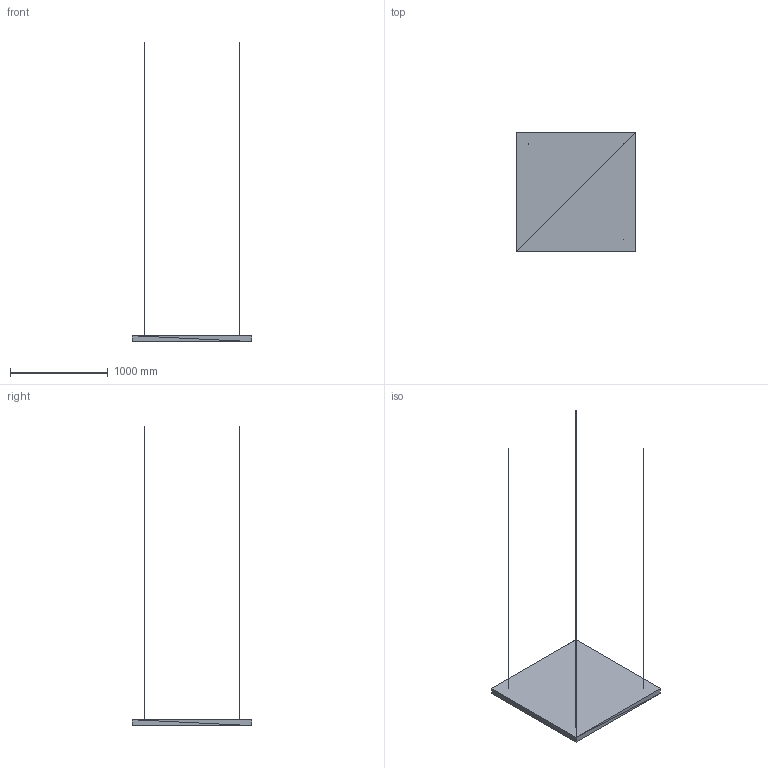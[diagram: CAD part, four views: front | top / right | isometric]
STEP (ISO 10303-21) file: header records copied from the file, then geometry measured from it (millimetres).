
FILE_DESCRIPTION(('ISINAC STEP AP214'),'2;1');
FILE_NAME('ISINAC_C.1220_60mm_COLGADO','2026-05-03T10:49:19',('ISINAC'),('www.isinac.com'),'ISINAC BIM Generator 1.0','','');
FILE_SCHEMA(('AUTOMOTIVE_DESIGN'));
Length unit declared in the file: millimetre
Products named in the file (1): ISINAC_C.1220_60mm_COLGADO
Bounding box: 1220 x 1220 x 3060 mm (x, y, z)
Surface area: 3377645.2 mm2 (no closed solid volume)
Topology: 0 solids, 92 shells, 92 faces, 276 edges, 276 vertices
Faces by surface type: plane 92
Entity records: 1025 total; most frequent: CARTESIAN_POINT 368, DIRECTION 184, POLY_LOOP 92, FACE_OUTER_BOUND 92, AXIS2_PLACEMENT_3D 92, PLANE 92, FACE_SURFACE 92, CLOSED_SHELL 1
